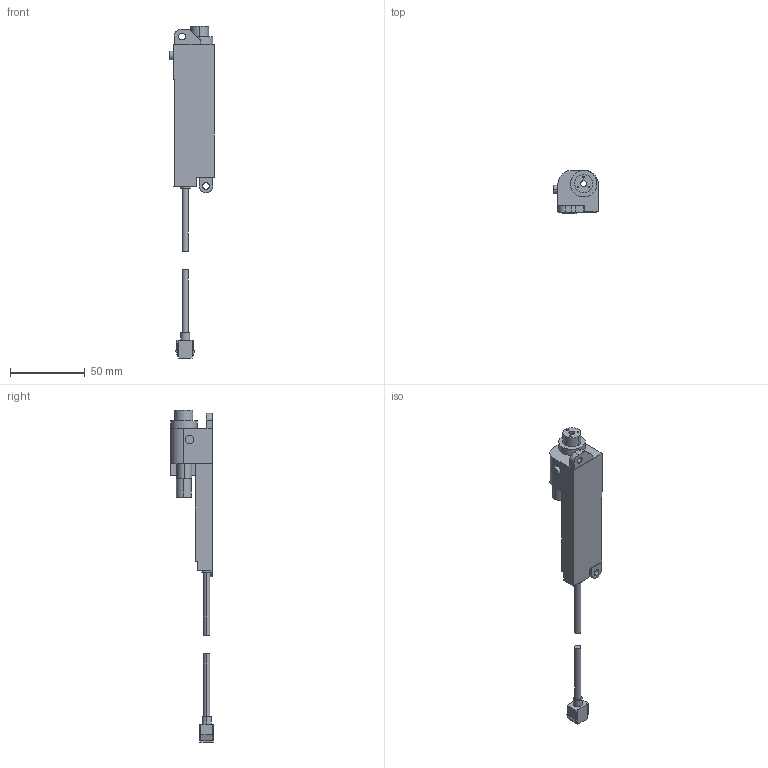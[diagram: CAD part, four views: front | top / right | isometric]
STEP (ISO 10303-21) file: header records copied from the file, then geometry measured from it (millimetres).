
FILE_DESCRIPTION (( 'STEP AP203' ), '1' );
FILE_NAME ('ER-VS01(+ER-VAS).STEP', '2005-09-06T02:41:39', ( '' ), ( '' ), 'SwSTEP 2.0', 'SolidWorks 2004073', '' );
FILE_SCHEMA (( 'CONFIG_CONTROL_DESIGN' ));
Length unit declared in the file: millimetre
Products named in the file (3): ER-VS01(+ER-VAS); ER-VS01_蹬怮椔; ER-VAS_蹬怮椔
Assembly tree (2 placements, depth 2):
  ER-VS01(+ER-VAS)
    ER-VS01_蹬怮椔
    ER-VAS_蹬怮椔
Bounding box: 29.8 x 28.6 x 222.3 mm (x, y, z)
Volume: 44915.8 mm3; surface area: 16356.9 mm2
Topology: 3 solids, 3 shells, 169 faces, 421 edges, 277 vertices
Faces by surface type: plane 96, cylinder 73
Entity records: 5396 total; most frequent: DIRECTION 927, CARTESIAN_POINT 872, ORIENTED_EDGE 842, EDGE_CURVE 421, AXIS2_PLACEMENT_3D 332, VERTEX_POINT 277, VECTOR 263, LINE 263
